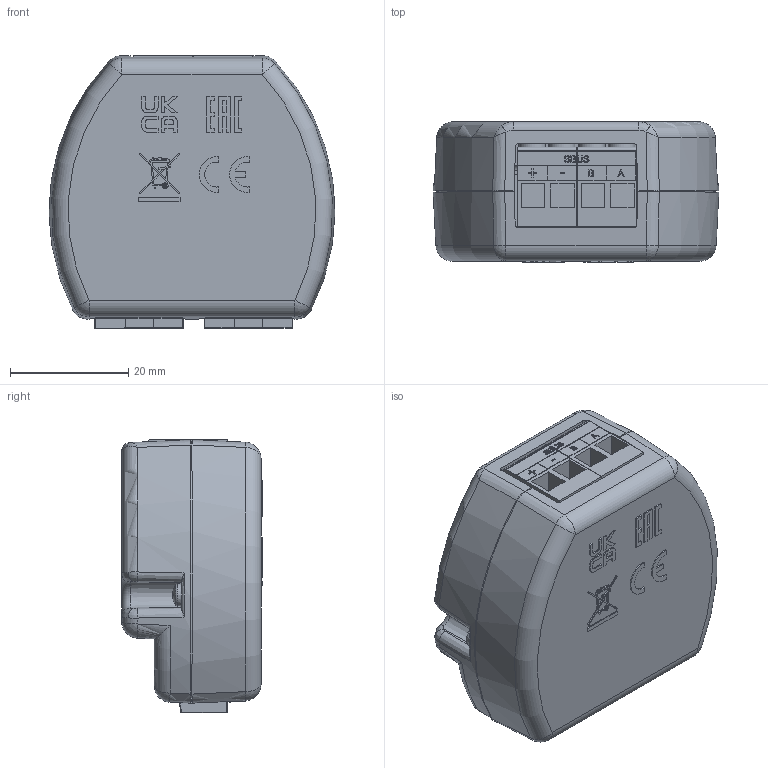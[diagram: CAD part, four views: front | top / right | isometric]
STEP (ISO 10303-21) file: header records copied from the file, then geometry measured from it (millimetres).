
FILE_DESCRIPTION(/* description */ (''),/* implementation_level */ '2;1');
FILE_NAME(/* name */ 'PPZ-02m.step',/* time_stamp */ '2026-02-06T13:02:41+01:00',/* author */ (''),/* organization */ (''),/* preprocessor_version */ 'ST-DEVELOPER v20.1',/* originating_system */ 'Autodesk Translation Framework v14.24.0.0',/* authorisation */ '');
FILE_SCHEMA (('AUTOMOTIVE_DESIGN { 1 0 10303 214 3 1 1 }'));
Length unit declared in the file: millimetre
Products named in the file (12): PPZ-02m; OP-1012-A; OP-1012-A_1; OP-1012-B; OP-1012-B_1; ST-1018_2_1_C; Board; Packages; KF169-5.0-2P-1GR; DG300R-5.0-02P; S_023.05.000.00006; Komponent1
Assembly tree (16 placements, depth 4):
  PPZ-02m
    OP-1012-A
      OP-1012-A_1
    OP-1012-B
      OP-1012-B_1
    ST-1018_2_1_C
      Board
      Packages
        KF169-5.0-2P-1GR  x2
    DG300R-5.0-02P  x4
    S_023.05.000.00006  x2
    Komponent1
Bounding box: 48.4 x 23.8 x 46.35 mm (x, y, z)
Volume: 18618.2 mm3; surface area: 25747.1 mm2
Topology: 27 solids, 27 shells, 2093 faces, 5479 edges, 3528 vertices
Faces by surface type: plane 1277, cylinder 404, bspline 167, cone 95, torus 90, sphere 60
Full cylindrical faces by diameter (mm): 0.25 x1, 0.4 x17, 0.5 x63, 0.6 x7, 0.601 x1, 0.8 x10, 1 x16, 1.3 x4, 1.6 x10, 2.17 x2, 3 x8, 3.6 x4, 4 x8, 4.5 x4
Entity records: 53852 total; most frequent: CARTESIAN_POINT 13093, ORIENTED_EDGE 8624, DIRECTION 7694, EDGE_CURVE 4312, LINE 3010, VECTOR 3010, VERTEX_POINT 2830, AXIS2_PLACEMENT_3D 2342
